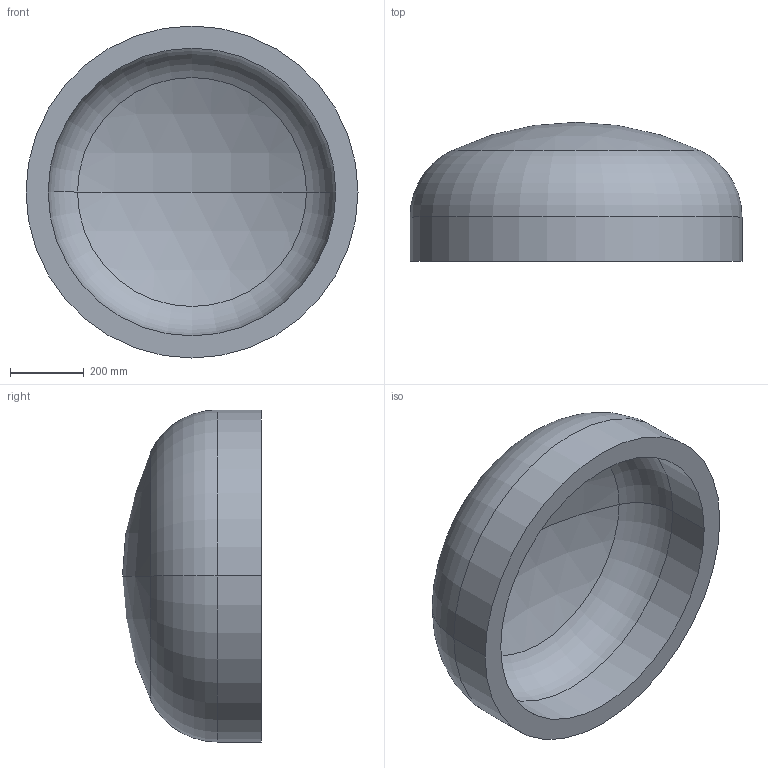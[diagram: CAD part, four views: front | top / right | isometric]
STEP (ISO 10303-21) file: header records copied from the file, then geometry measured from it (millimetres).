
FILE_DESCRIPTION (( 'STEP AP203' ), '1' );
FILE_NAME ('DIN 28013 Korbbogenform_-_Boden DIN 28013 - 900 x 120 - I - s=60.step', '2016-07-01T08:34:25', ( '' ), ( '' ), 'SwSTEP 2.0', 'SolidWorks 2013', '' );
FILE_SCHEMA (( 'CONFIG_CONTROL_DESIGN' ));
Length unit declared in the file: millimetre
Products named in the file (1): DIN 28013 Korbbogenform_-_Boden DIN 28013 - 900 x 120 - I - s=60
Bounding box: 900 x 376.65 x 900 mm (x, y, z)
Volume: 67682327.9 mm3; surface area: 2421953.3 mm2
Topology: 1 solids, 1 shells, 13 faces, 24 edges, 14 vertices
Faces by surface type: torus 4, cylinder 4, sphere 4, plane 1
Entity records: 407 total; most frequent: DIRECTION 72, CARTESIAN_POINT 52, ORIENTED_EDGE 48, AXIS2_PLACEMENT_3D 34, EDGE_CURVE 24, CIRCLE 20, VERTEX_POINT 14, EDGE_LOOP 14
